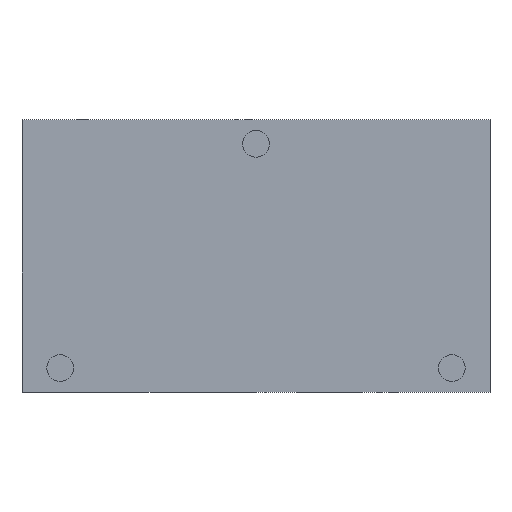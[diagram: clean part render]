
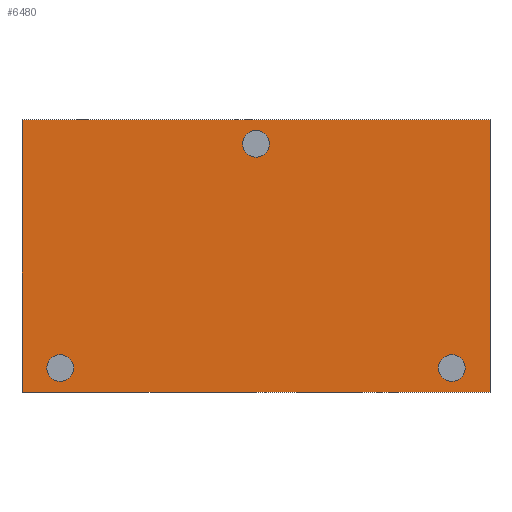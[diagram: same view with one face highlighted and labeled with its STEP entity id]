
A CAD part, top view. The second image highlights one B-rep face of the part: STEP entity #6480.
In plain terms, the highlighted planar face has unit normal (0, 0, 1).
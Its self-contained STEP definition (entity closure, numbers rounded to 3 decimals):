
#54 = AXIS2_PLACEMENT_3D ( 'NONE', #5169, #8451, #6838 ) ;
#94 = AXIS2_PLACEMENT_3D ( 'NONE', #1347, #10482, #10434 ) ;
#103 = EDGE_LOOP ( 'NONE', ( #9615 ) ) ;
#264 = EDGE_CURVE ( 'NONE', #1828, #1828, #1107, .T. ) ;
#275 = DIRECTION ( 'NONE',  ( 1., 0., 0. ) ) ;
#535 = DIRECTION ( 'NONE',  ( -1., 0., 0. ) ) ;
#597 = CIRCLE ( 'NONE', #94, 5.25 ) ;
#672 = VERTEX_POINT ( 'NONE', #6151 ) ;
#693 = CARTESIAN_POINT ( 'NONE',  ( 9.75, -97.5, 20. ) ) ;
#742 = VECTOR ( 'NONE', #535, 1000. ) ;
#754 = DIRECTION ( 'NONE',  ( 0., 1., 0. ) ) ;
#1107 = CIRCLE ( 'NONE', #8357, 5.25 ) ;
#1347 = CARTESIAN_POINT ( 'NONE',  ( 15., -97.5, 20. ) ) ;
#1492 = EDGE_CURVE ( 'NONE', #3140, #3140, #597, .T. ) ;
#1496 = FACE_BOUND ( 'NONE', #103, .T. ) ;
#1550 = DIRECTION ( 'NONE',  ( 1., 0., 0. ) ) ;
#1828 = VERTEX_POINT ( 'NONE', #6425 ) ;
#1995 = EDGE_LOOP ( 'NONE', ( #4885, #3697, #4092, #3513 ) ) ;
#2075 = CARTESIAN_POINT ( 'NONE',  ( 163.35, -97.5, 20. ) ) ;
#2140 = AXIS2_PLACEMENT_3D ( 'NONE', #8141, #3289, #1550 ) ;
#2378 = EDGE_CURVE ( 'NONE', #3629, #3607, #4346, .T. ) ;
#2472 = ORIENTED_EDGE ( 'NONE', *, *, #264, .T. ) ;
#2804 = VECTOR ( 'NONE', #275, 1000. ) ;
#3140 = VERTEX_POINT ( 'NONE', #693 ) ;
#3250 = CARTESIAN_POINT ( 'NONE',  ( 183.6, -107., 20. ) ) ;
#3289 = DIRECTION ( 'NONE',  ( 0., 0., 1. ) ) ;
#3513 = ORIENTED_EDGE ( 'NONE', *, *, #10611, .T. ) ;
#3607 = VERTEX_POINT ( 'NONE', #8393 ) ;
#3629 = VERTEX_POINT ( 'NONE', #10230 ) ;
#3697 = ORIENTED_EDGE ( 'NONE', *, *, #8455, .T. ) ;
#4092 = ORIENTED_EDGE ( 'NONE', *, *, #8324, .T. ) ;
#4346 = LINE ( 'NONE', #5114, #6302 ) ;
#4365 = EDGE_LOOP ( 'NONE', ( #2472 ) ) ;
#4745 = FACE_BOUND ( 'NONE', #9496, .T. ) ;
#4764 = CARTESIAN_POINT ( 'NONE',  ( 0., 0., 20. ) ) ;
#4885 = ORIENTED_EDGE ( 'NONE', *, *, #2378, .T. ) ;
#4969 = FACE_BOUND ( 'NONE', #4365, .T. ) ;
#5114 = CARTESIAN_POINT ( 'NONE',  ( 0., 0., 20. ) ) ;
#5169 = CARTESIAN_POINT ( 'NONE',  ( 168.6, -97.5, 20. ) ) ;
#5189 = LINE ( 'NONE', #7676, #2804 ) ;
#5417 = DIRECTION ( 'NONE',  ( 0., 0., -1. ) ) ;
#5671 = CARTESIAN_POINT ( 'NONE',  ( 183.6, 0., 20. ) ) ;
#6111 = VERTEX_POINT ( 'NONE', #3250 ) ;
#6151 = CARTESIAN_POINT ( 'NONE',  ( 183.6, 0., 20. ) ) ;
#6250 = CIRCLE ( 'NONE', #54, 5.25 ) ;
#6302 = VECTOR ( 'NONE', #7637, 1000. ) ;
#6425 = CARTESIAN_POINT ( 'NONE',  ( 86.55, -9.5, 20. ) ) ;
#6480 = ADVANCED_FACE ( 'NONE', ( #4969, #1496, #4745, #7389 ), #10684, .T. ) ;
#6837 = DIRECTION ( 'NONE',  ( -1., 0., 0. ) ) ;
#6838 = DIRECTION ( 'NONE',  ( -1., 0., 0. ) ) ;
#7007 = VERTEX_POINT ( 'NONE', #2075 ) ;
#7389 = FACE_OUTER_BOUND ( 'NONE', #1995, .T. ) ;
#7402 = LINE ( 'NONE', #5671, #9873 ) ;
#7572 = EDGE_CURVE ( 'NONE', #7007, #7007, #6250, .T. ) ;
#7637 = DIRECTION ( 'NONE',  ( 0., -1., 0. ) ) ;
#7676 = CARTESIAN_POINT ( 'NONE',  ( 0., -107., 20. ) ) ;
#8141 = CARTESIAN_POINT ( 'NONE',  ( 0., 0., 20. ) ) ;
#8324 = EDGE_CURVE ( 'NONE', #6111, #672, #7402, .T. ) ;
#8357 = AXIS2_PLACEMENT_3D ( 'NONE', #9421, #5417, #6837 ) ;
#8393 = CARTESIAN_POINT ( 'NONE',  ( 0., -107., 20. ) ) ;
#8451 = DIRECTION ( 'NONE',  ( 0., 0., -1. ) ) ;
#8455 = EDGE_CURVE ( 'NONE', #3607, #6111, #5189, .T. ) ;
#8863 = LINE ( 'NONE', #4764, #742 ) ;
#9421 = CARTESIAN_POINT ( 'NONE',  ( 91.8, -9.5, 20. ) ) ;
#9496 = EDGE_LOOP ( 'NONE', ( #10693 ) ) ;
#9615 = ORIENTED_EDGE ( 'NONE', *, *, #7572, .T. ) ;
#9873 = VECTOR ( 'NONE', #754, 1000. ) ;
#10230 = CARTESIAN_POINT ( 'NONE',  ( 0., 0., 20. ) ) ;
#10434 = DIRECTION ( 'NONE',  ( -1., 0., 0. ) ) ;
#10482 = DIRECTION ( 'NONE',  ( 0., 0., -1. ) ) ;
#10611 = EDGE_CURVE ( 'NONE', #672, #3629, #8863, .T. ) ;
#10684 = PLANE ( 'NONE',  #2140 ) ;
#10693 = ORIENTED_EDGE ( 'NONE', *, *, #1492, .T. ) ;
